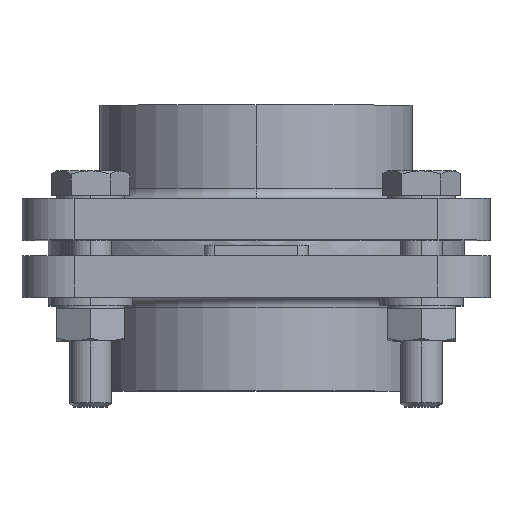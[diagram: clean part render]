
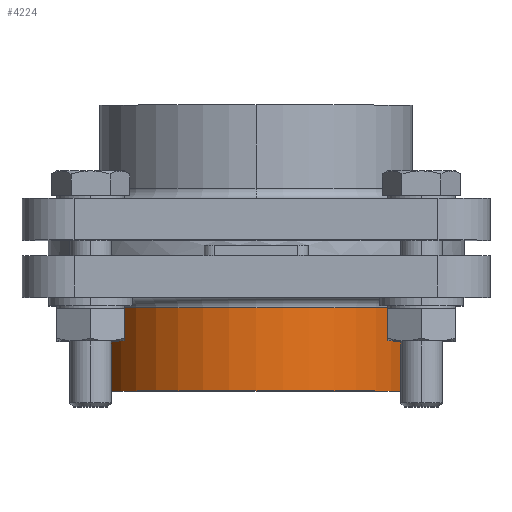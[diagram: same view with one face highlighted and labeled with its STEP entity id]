
A CAD part, top view. The second image highlights one B-rep face of the part: STEP entity #4224.
In plain terms, the highlighted cylindrical face has radius 30 mm (diameter 60 mm), a partial arc.
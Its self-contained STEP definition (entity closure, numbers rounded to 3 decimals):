
#505 = EDGE_CURVE ( 'NONE', #6559, #1845, #6140, .T. ) ;
#1326 = LINE ( 'NONE', #3854, #5137 ) ;
#1845 = VERTEX_POINT ( 'NONE', #2139 ) ;
#1922 = DIRECTION ( 'NONE',  ( 0., 1., 0. ) ) ;
#1943 = EDGE_CURVE ( 'NONE', #1845, #2129, #1326, .T. ) ;
#2129 = VERTEX_POINT ( 'NONE', #7952 ) ;
#2139 = CARTESIAN_POINT ( 'NONE',  ( 15.881, -40.734, 3.465 ) ) ;
#2355 = DIRECTION ( 'NONE',  ( 0., 1., 0. ) ) ;
#2813 = CARTESIAN_POINT ( 'NONE',  ( -14.119, -15.336, 3.465 ) ) ;
#2895 = CARTESIAN_POINT ( 'NONE',  ( -44.119, -15.336, 3.465 ) ) ;
#2936 = FACE_OUTER_BOUND ( 'NONE', #9157, .T. ) ;
#3065 = CIRCLE ( 'NONE', #3156, 30. ) ;
#3156 = AXIS2_PLACEMENT_3D ( 'NONE', #6481, #1922, #7253 ) ;
#3347 = EDGE_CURVE ( 'NONE', #6559, #4974, #9400, .T. ) ;
#3536 = AXIS2_PLACEMENT_3D ( 'NONE', #5912, #5706, #4287 ) ;
#3794 = EDGE_CURVE ( 'NONE', #4974, #2129, #3065, .T. ) ;
#3854 = CARTESIAN_POINT ( 'NONE',  ( 15.881, -15.336, 3.465 ) ) ;
#3899 = ORIENTED_EDGE ( 'NONE', *, *, #3347, .F. ) ;
#4009 = CYLINDRICAL_SURFACE ( 'NONE', #5514, 30. ) ;
#4224 = ADVANCED_FACE ( 'NONE', ( #2936 ), #4009, .T. ) ;
#4287 = DIRECTION ( 'NONE',  ( 1., 0., 0. ) ) ;
#4417 = CARTESIAN_POINT ( 'NONE',  ( -44.119, -40.734, 3.465 ) ) ;
#4974 = VERTEX_POINT ( 'NONE', #9781 ) ;
#5072 = DIRECTION ( 'NONE',  ( 0., 1., 0. ) ) ;
#5115 = VECTOR ( 'NONE', #6709, 1000. ) ;
#5137 = VECTOR ( 'NONE', #2355, 1000. ) ;
#5181 = ORIENTED_EDGE ( 'NONE', *, *, #1943, .T. ) ;
#5514 = AXIS2_PLACEMENT_3D ( 'NONE', #2813, #5072, #8165 ) ;
#5706 = DIRECTION ( 'NONE',  ( 0., 1., 0. ) ) ;
#5912 = CARTESIAN_POINT ( 'NONE',  ( -14.119, -40.734, 3.465 ) ) ;
#6140 = CIRCLE ( 'NONE', #3536, 30. ) ;
#6481 = CARTESIAN_POINT ( 'NONE',  ( -14.119, -24.734, 3.465 ) ) ;
#6559 = VERTEX_POINT ( 'NONE', #4417 ) ;
#6709 = DIRECTION ( 'NONE',  ( 0., 1., 0. ) ) ;
#7031 = ORIENTED_EDGE ( 'NONE', *, *, #3794, .F. ) ;
#7173 = ORIENTED_EDGE ( 'NONE', *, *, #505, .T. ) ;
#7253 = DIRECTION ( 'NONE',  ( 1., 0., 0. ) ) ;
#7952 = CARTESIAN_POINT ( 'NONE',  ( 15.881, -24.734, 3.465 ) ) ;
#8165 = DIRECTION ( 'NONE',  ( 1., 0., 0. ) ) ;
#9157 = EDGE_LOOP ( 'NONE', ( #3899, #7173, #5181, #7031 ) ) ;
#9400 = LINE ( 'NONE', #2895, #5115 ) ;
#9781 = CARTESIAN_POINT ( 'NONE',  ( -44.119, -24.734, 3.465 ) ) ;
